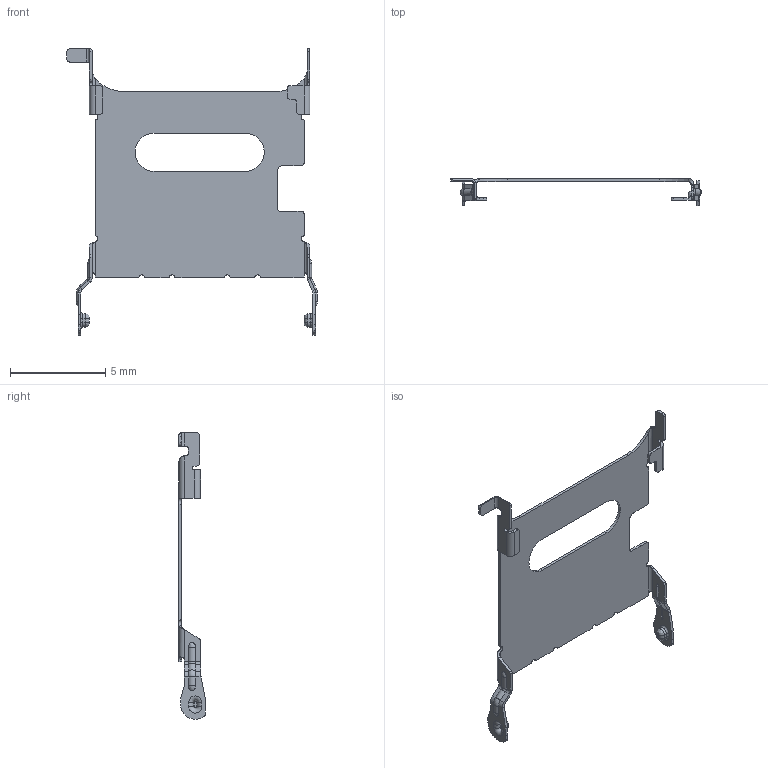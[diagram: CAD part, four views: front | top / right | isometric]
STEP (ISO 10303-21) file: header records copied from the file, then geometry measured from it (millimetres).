
FILE_DESCRIPTION((''),'2;1');
FILE_NAME('S-DSC20-114XX0_1_PRT','2008-06-30T',('GRA'),(''),'PRO/ENGINEER BY PARAMETRIC TECHNOLOGY CORPORATION, 2006170','PRO/ENGINEER BY PARAMETRIC TECHNOLOGY CORPORATION, 2006170','');
FILE_SCHEMA(('CONFIG_CONTROL_DESIGN'));
Length unit declared in the file: millimetre
Products named in the file (1): S-DSC20-114XX0_1_PRT
Bounding box: 13.2 x 1.4 x 15.07 mm (x, y, z)
Volume: 16.5 mm3; surface area: 245.2 mm2
Topology: 1 solids, 1 shells, 623 faces, 1690 edges, 1095 vertices
Faces by surface type: plane 474, cylinder 106, bspline 22, torus 20, cone 1
Entity records: 20282 total; most frequent: CARTESIAN_POINT 4460, ORIENTED_EDGE 3380, DIRECTION 3129, EDGE_CURVE 1690, VECTOR 1383, LINE 1383, VERTEX_POINT 1095, AXIS2_PLACEMENT_3D 873
